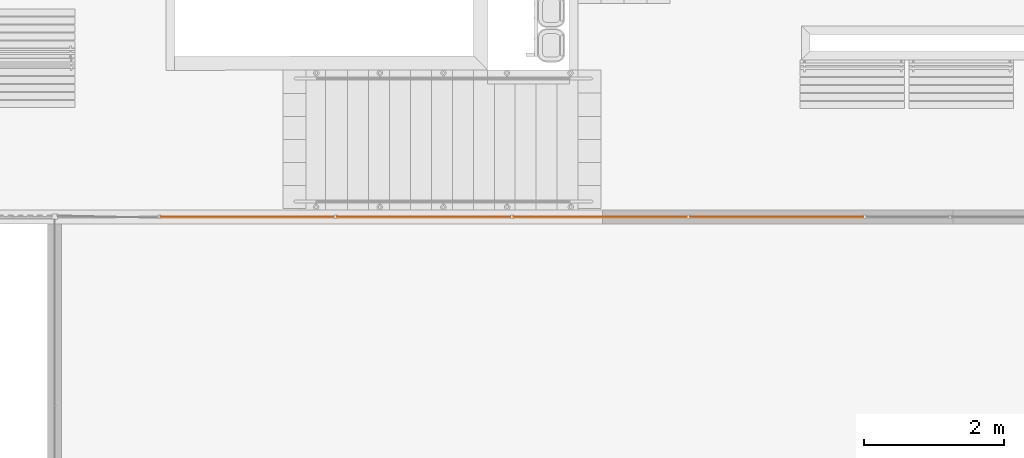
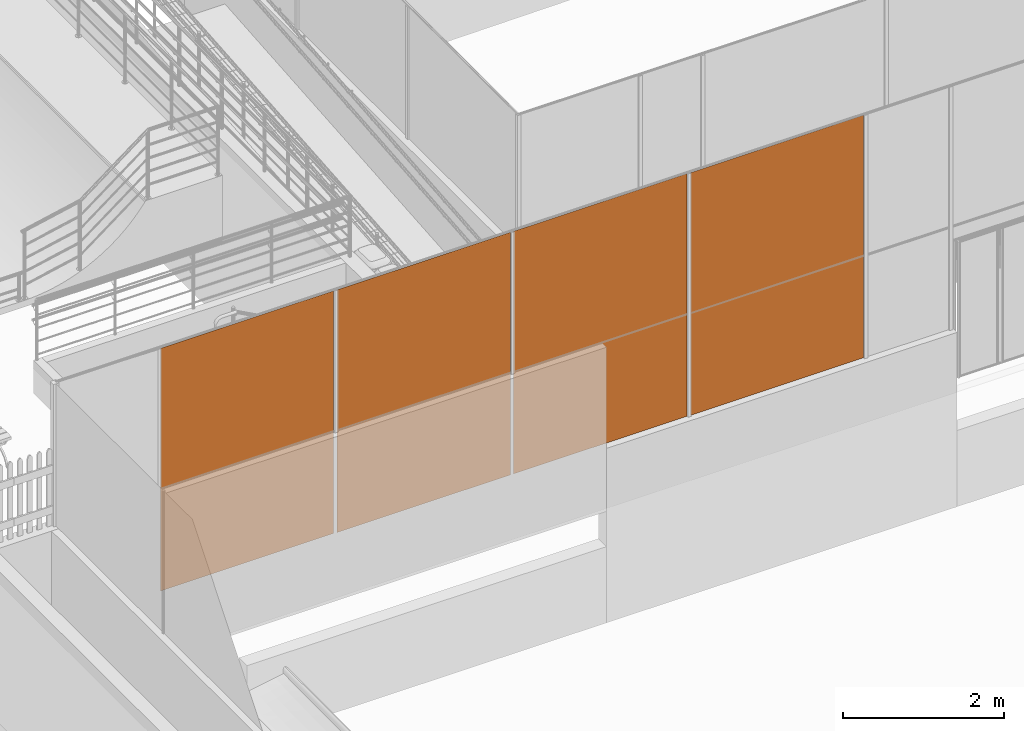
# One storey, part 154 of 237: 4 proxies.
"""IFC2X3 building model written with IfcOpenShell, lengths in millimetres."""

import ifcopenshell
import ifcopenshell.guid

model = None  # the IFC model being written
_history = None  # IfcOwnerHistory: only IFC2X3 demands one
_inside = {}  # id of a spatial element -> (the spatial element, [elements in it])
_under = {}  # id of a project, library or spatial element -> (it, [spatial elements below it])
_declared = {}  # id of a project -> (the project, [libraries it declares])
_typed = {}  # id of a type object -> (the type object, [elements of that type])
_made_of = {}  # id of a material, layer set ... -> (it, [elements and type objects made of it])


def new_model(schema):
    """Start an empty IFC model of exactly this schema.

    Asked for "IFC4X3", IfcOpenShell would pick the latest addendum, in which some entities
    have other attributes; the version numbers below select the first issue.
    IFC2X3 requires an IfcOwnerHistory on every rooted entity: one is made here for all.
    """
    global model, _history
    if schema == "IFC4X3":
        model = ifcopenshell.file(schema_version=(4, 3, 0, 0))
    else:
        model = ifcopenshell.file(schema=schema)
    _inside.clear()
    _under.clear()
    _declared.clear()
    _typed.clear()
    _made_of.clear()
    _history = None
    if model.schema == "IFC2X3":
        org = make("IfcOrganization", Name="unknown")
        user = make(
            "IfcPersonAndOrganization",
            ThePerson=make("IfcPerson", FamilyName="unknown"),
            TheOrganization=org,
        )
        app = make(
            "IfcApplication",
            ApplicationDeveloper=org,
            Version="unknown",
            ApplicationFullName="unknown",
            ApplicationIdentifier="unknown",
        )
        _history = make(
            "IfcOwnerHistory",
            OwningUser=user,
            OwningApplication=app,
            ChangeAction="ADDED",
            CreationDate=0,
        )
    return model


def make(cls, **values):
    """One entity of the class cls with the attributes given. An attribute that is None is left unset."""
    return model.create_entity(
        cls, **{name: value for name, value in values.items() if value is not None}
    )


def entity(cls, *values):
    """Any entity or typed value of the class cls, its attributes in the order of the schema. None: left unset."""
    e = model.create_entity(cls)
    for i, value in enumerate(values):
        if value is not None:
            e[i] = value
    return e


def rooted(cls, **values):
    """An entity with a GlobalId (a new one), such as an element, a storey or a relation."""
    return make(cls, GlobalId=ifcopenshell.guid.new(), OwnerHistory=_history, **values)


def si_unit(unit_type, name, prefix=None):
    """IfcSIUnit, for example si_unit("LENGTHUNIT", "METRE", prefix="MILLI")."""
    return make("IfcSIUnit", UnitType=unit_type, Prefix=prefix, Name=name)


def converted_unit(unit_type, name, factor, base, dimensions=None, offset=None):
    """IfcConversionBasedUnit, such as the inch: factor (a typed value) times the base unit."""
    return make(
        "IfcConversionBasedUnit"
        if offset is None
        else "IfcConversionBasedUnitWithOffset",
        ConversionOffset=offset,
        Dimensions=None
        if dimensions is None
        else entity("IfcDimensionalExponents", *dimensions),
        UnitType=unit_type,
        Name=name,
        ConversionFactor=make(
            "IfcMeasureWithUnit", ValueComponent=factor, UnitComponent=base
        ),
    )


def derived_unit(unit_type, elements):
    """IfcDerivedUnit: a product of units, each with its exponent."""
    return make(
        "IfcDerivedUnit",
        Elements=[
            make("IfcDerivedUnitElement", Unit=unit, Exponent=power)
            for unit, power in elements
        ],
        UnitType=unit_type,
    )


def money_unit(currency):
    """IfcMonetaryUnit."""
    return make("IfcMonetaryUnit", Currency=currency)


def assignment(units):
    """IfcUnitAssignment: the units of a project."""
    return None if units is None else make("IfcUnitAssignment", Units=units)


def point(xyz):
    """IfcCartesianPoint."""
    return None if xyz is None else make("IfcCartesianPoint", Coordinates=xyz)


def direction(xyz):
    """IfcDirection."""
    return None if xyz is None else make("IfcDirection", DirectionRatios=xyz)


def frame(location, z_axis=None, x_axis=None):
    """IfcAxis2Placement3D, a coordinate frame: its origin and axes. An axis left out is left unset."""
    return make(
        "IfcAxis2Placement3D",
        Location=point(location),
        Axis=direction(z_axis),
        RefDirection=direction(x_axis),
    )


def origin_with_axes():
    """The frame at (0, 0, 0) with the z axis (0, 0, 1) and the x axis (1, 0, 0) written out."""
    return frame((0.0, 0.0, 0.0), z_axis=(0.0, 0.0, 1.0), x_axis=(1.0, 0.0, 0.0))


def place(relative_to, where):
    """IfcLocalPlacement: puts the frame where relative to a parent placement (None: the world)."""
    return make(
        "IfcLocalPlacement", PlacementRelTo=relative_to, RelativePlacement=where
    )


def context(
    kind, dimensions, precision=None, world=None, true_north=None, identifier=None
):
    """IfcGeometricRepresentationContext, for example the 3D "Model" context."""
    return make(
        "IfcGeometricRepresentationContext",
        ContextIdentifier=identifier,
        ContextType=kind,
        CoordinateSpaceDimension=dimensions,
        Precision=precision,
        WorldCoordinateSystem=world,
        TrueNorth=true_north,
    )


def subcontext(parent, identifier, kind, view, scale=None):
    """IfcGeometricRepresentationSubContext, for example "Body" below "Model"."""
    return make(
        "IfcGeometricRepresentationSubContext",
        ContextIdentifier=identifier,
        ContextType=kind,
        ParentContext=parent,
        TargetScale=scale,
        TargetView=view,
    )


def project(units=None, contexts=None):
    """IfcProject with its units and contexts."""
    return rooted(
        "IfcProject",
        Name="project",
        RepresentationContexts=contexts,
        UnitsInContext=assignment(units),
    )


def spatial(cls, under=None, at=None, **own):
    """A site, building, storey or space (cls), placed at a placement, below another one or the project."""
    s = rooted(cls, ObjectPlacement=at, **own)
    if under is not None:
        _under.setdefault(under.id(), (under, []))[1].append(s)
    return s


def faces_of(points, faces, orient=None, outer=None):
    """IfcFace entities. A face is a list of loops; a loop is a list of indices into points, from 0.

    orient and outer hold one flag for each loop. By default every Orientation is true, the
    first loop of a face is its IfcFaceOuterBound and the others are IfcFaceBound.
    """
    made = []
    for i, loops in enumerate(faces):
        bounds = []
        for j, loop in enumerate(loops):
            is_outer = j == 0 if outer is None else outer[i][j]
            bounds.append(
                make(
                    "IfcFaceOuterBound" if is_outer else "IfcFaceBound",
                    Bound=make("IfcPolyLoop", Polygon=[points[k] for k in loop]),
                    Orientation=True if orient is None else orient[i][j],
                )
            )
        made.append(make("IfcFace", Bounds=bounds))
    return made


def open_shell(faces, orient=None, outer=None):
    """The faces of one IfcOpenShell. surface_model builds it on its shared points."""
    return ("IfcOpenShell", faces, orient, outer)


def surface_model(cls, points, shells):
    """IfcFaceBasedSurfaceModel or IfcShellBasedSurfaceModel (cls): surfaces that need not close."""
    shared = [point(p) for p in points]
    made = [make(c, CfsFaces=faces_of(shared, fs, o, b)) for c, fs, o, b in shells]
    if cls == "IfcFaceBasedSurfaceModel":
        return make(cls, FbsmFaces=made)
    return make(cls, SbsmBoundary=made)


def shape(context_of_items, identifier, shape_type, items):
    """IfcShapeRepresentation: the items that make up one representation, for example the "Body"."""
    return make(
        "IfcShapeRepresentation",
        ContextOfItems=context_of_items,
        RepresentationIdentifier=identifier,
        RepresentationType=shape_type,
        Items=items,
    )


def source(mapping_origin, context_of_items, identifier, shape_type, items):
    """IfcRepresentationMap: a shape defined once, which mapped items show again and again."""
    return make(
        "IfcRepresentationMap",
        MappingOrigin=mapping_origin,
        MappedRepresentation=shape(context_of_items, identifier, shape_type, items),
    )


def transform(
    local_origin,
    x_axis=None,
    y_axis=None,
    z_axis=None,
    scale=None,
    scale2=None,
    scale3=None,
    uniform=True,
):
    """IfcCartesianTransformationOperator3D, or its non-uniform kind. x_axis, y_axis, z_axis: its Axis1, 2, 3."""
    if uniform:
        return make(
            "IfcCartesianTransformationOperator3D",
            Axis1=direction(x_axis),
            Axis2=direction(y_axis),
            LocalOrigin=point(local_origin),
            Scale=scale,
            Axis3=direction(z_axis),
        )
    return make(
        "IfcCartesianTransformationOperator3DnonUniform",
        Axis1=direction(x_axis),
        Axis2=direction(y_axis),
        LocalOrigin=point(local_origin),
        Scale=scale,
        Axis3=direction(z_axis),
        Scale2=scale2,
        Scale3=scale3,
    )


def mapped(mapping_source, mapping_target):
    """IfcMappedItem: shows the shape of a source again, moved by a transform."""
    return make(
        "IfcMappedItem", MappingSource=mapping_source, MappingTarget=mapping_target
    )


def made_of(thing, what):
    """Note that an element or type object is made of a material, layer set ...; save() writes the relation."""
    if what is not None:
        _made_of.setdefault(what.id(), (what, []))[1].append(thing)
    return thing


def type_object(cls, material=None, **own):
    """A type object (cls), such as IfcWallType, which elements share."""
    return made_of(rooted(cls, **own), material)


def element(
    cls,
    number,
    at=None,
    inside=None,
    cuts=None,
    type_object=None,
    material=None,
    context=None,
    identifier="Body",
    shape_type=None,
    held_by="IfcProductDefinitionShape",
    body=None,
    shapes=None,
    **own,
):
    """One element of the class cls, such as IfcWall. Its Tag is "e" and its number.

    at: its placement. inside: the storey or other place that contains it. cuts: it is an
    opening in that element (IfcRelVoidsElement). A single representation is given by context,
    identifier, shape_type and body (its items); several are given by shapes. held_by: the class
    of the entity that holds the representations. save() writes the other relations.
    """
    e = rooted(cls, Tag="e%d" % number, ObjectPlacement=at, **own)
    if body is not None:
        shapes = [shape(context, identifier, shape_type, body)]
    if shapes is not None:
        e.Representation = make(held_by, Representations=shapes)
    if inside is not None:
        _inside.setdefault(inside.id(), (inside, []))[1].append(e)
    if cuts is not None:
        rooted(
            "IfcRelVoidsElement", RelatingBuildingElement=cuts, RelatedOpeningElement=e
        )
    if type_object is not None:
        _typed.setdefault(type_object.id(), (type_object, []))[1].append(e)
    return made_of(e, material)


def aggregate(whole, parts):
    """IfcRelAggregates: a whole, such as a stair, and the parts it consists of."""
    return rooted("IfcRelAggregates", RelatingObject=whole, RelatedObjects=parts)


def save(model, path):
    """Write the relations noted so far, then the file.

    IfcRelAggregates (storeys below a building ...), IfcRelContainedInSpatialStructure (elements
    in a storey), IfcRelDefinesByType, IfcRelAssociatesMaterial and IfcRelDeclares: one each for
    every whole, place, type object, material and project.
    """
    for whole, parts in _under.values():
        aggregate(whole, parts)
    for where, things in _inside.values():
        rooted(
            "IfcRelContainedInSpatialStructure",
            RelatedElements=things,
            RelatingStructure=where,
        )
    for kind, things in _typed.values():
        rooted("IfcRelDefinesByType", RelatedObjects=things, RelatingType=kind)
    for what, things in _made_of.values():
        rooted("IfcRelAssociatesMaterial", RelatedObjects=things, RelatingMaterial=what)
    for by, libraries in _declared.values():
        rooted("IfcRelDeclares", RelatingContext=by, RelatedDefinitions=libraries)
    model.write(path)


model = new_model("IFC2X3")

# Units and contexts
model_context = context("Model", 3, precision=0.01, world=origin_with_axes(), true_north=direction((0.0, 1.0)))
body_context = subcontext(model_context, "Body", "Model", "MODEL_VIEW")
ifc_project = project(units=[si_unit("LENGTHUNIT", "METRE", prefix="MILLI"), si_unit("AREAUNIT", "SQUARE_METRE"), si_unit("VOLUMEUNIT", "CUBIC_METRE"), converted_unit("PLANEANGLEUNIT", "DEGREE", entity("IfcPlaneAngleMeasure", 0.0174532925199), si_unit("PLANEANGLEUNIT", "RADIAN"), dimensions=[0, 0, 0, 0, 0, 0, 0]), money_unit("USD"), converted_unit("TIMEUNIT", "Year", entity("IfcTimeMeasure", 31556926.0), si_unit("TIMEUNIT", "SECOND"), dimensions=[0, 0, 1, 0, 0, 0, 0]), si_unit("MASSUNIT", "GRAM", prefix="KILO"), si_unit("THERMODYNAMICTEMPERATUREUNIT", "DEGREE_CELSIUS"), si_unit("LUMINOUSINTENSITYUNIT", "LUMEN"), si_unit("ENERGYUNIT", "JOULE", prefix="MEGA"), derived_unit("THERMALCONDUCTANCEUNIT", [(si_unit("POWERUNIT", "WATT"), 1), (si_unit("LENGTHUNIT", "METRE"), -1), (si_unit("THERMODYNAMICTEMPERATUREUNIT", "KELVIN"), -1)]), derived_unit("SPECIFICHEATCAPACITYUNIT", [(si_unit("ENERGYUNIT", "JOULE"), 1), (si_unit("MASSUNIT", "GRAM", prefix="KILO"), -1), (si_unit("THERMODYNAMICTEMPERATUREUNIT", "KELVIN"), -1)]), derived_unit("MASSDENSITYUNIT", [(si_unit("MASSUNIT", "GRAM", prefix="KILO"), 1), (si_unit("VOLUMEUNIT", "CUBIC_METRE"), -1)])], contexts=[model_context])

# Site, building, storey
site_placement = place(None, origin_with_axes())
site = spatial("IfcSite", under=ifc_project, at=site_placement, Name="Local", CompositionType="ELEMENT")
building_placement = place(site_placement, origin_with_axes())
building = spatial("IfcBuilding", under=site, at=building_placement, Name="Construção", CompositionType="ELEMENT")
storey_placement = place(building_placement, origin_with_axes())
storey = spatial("IfcBuildingStorey", under=building, at=storey_placement, Name="Pavimento Térreo", CompositionType="ELEMENT", Elevation=0.0)

# Proxies
building_element_proxy_type = type_object("IfcBuildingElementProxyType", Name="Tela metalica1", PredefinedType="NOTDEFINED")
shared_shape = source(origin_with_axes(), body_context, "Body", "SurfaceModel", [
    surface_model("IfcShellBasedSurfaceModel", [(2480.0, 0.0, 3672.01860279), (0.0, 84.0423930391, 3672.01860279), (0.0, 84.0423930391, 0.0), (2480.0, 0.0, 0.0)], [open_shell([[[0, 1, 2, 3]]])]),
])
for number, where, z_axis, x_axis, name in (
    (1, (66042.8594887, 23471.8164699, -2705.59636589), (0.0, 0.0, 1.0), (0.999352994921, 0.0359665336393, 0.0), "Objeto-0044"),
    (2, (63515.1112527, 23471.8164699, -2708.4780175), (0.0, 0.0, 1.0), (0.999352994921, 0.0359665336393, 0.0), "Objeto-0044"),
    (3, (60987.3630166, 23471.8164699, -2708.4780175), (0.0, 0.0, 1.0), (0.999352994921, 0.0359665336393, 0.0), "Objeto-0044"),
    (4, (68570.6077247, 23471.8164699, -2705.59636589), (0.0, 0.0, 1.0), (0.999352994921, 0.0359665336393, 0.0), "Objeto-0044"),
):
    element("IfcBuildingElementProxy", number, at=place(storey_placement, frame(where, z_axis=z_axis, x_axis=x_axis)), inside=storey, type_object=building_element_proxy_type, Name=name, context=body_context, shape_type="MappedRepresentation", body=[
        mapped(shared_shape, transform((0.0, 0.0, 0.0))),
    ])

save(model, "model.ifc")
